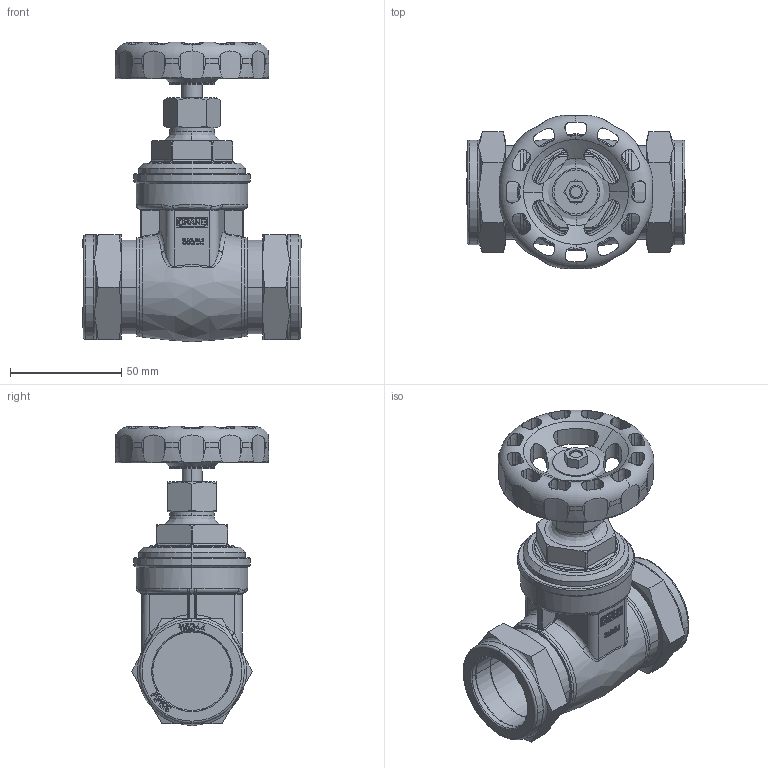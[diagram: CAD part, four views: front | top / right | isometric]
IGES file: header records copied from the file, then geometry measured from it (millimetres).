
Global section: file name: No Iges File Name specified; native system: AutoDesk Inventor R12.0; preprocessor: AutoDesk Inventor Iges Exporter R12.0; date: 20110311.145304; units: millimetre
Bounding box: 97.91 x 68.9 x 134.5 mm (x, y, z)
Volume: 219076.2 mm3; surface area: 58022.4 mm2
Topology: 1 solids, 1 shells, 1125 faces, 3132 edges, 2046 vertices
Faces by surface type: plane 506, bspline 279, revolution 162, cylinder 92, cone 58, torus 28
